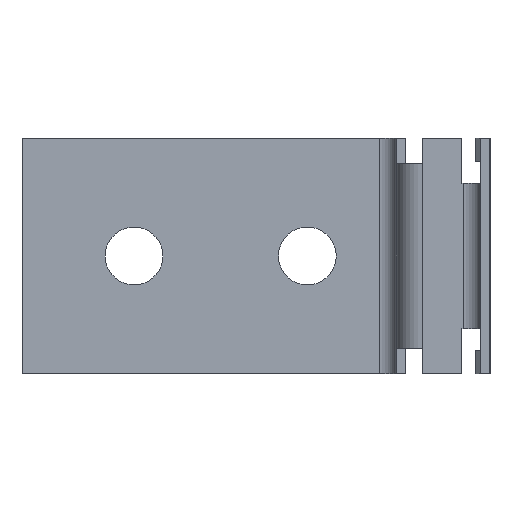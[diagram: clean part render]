
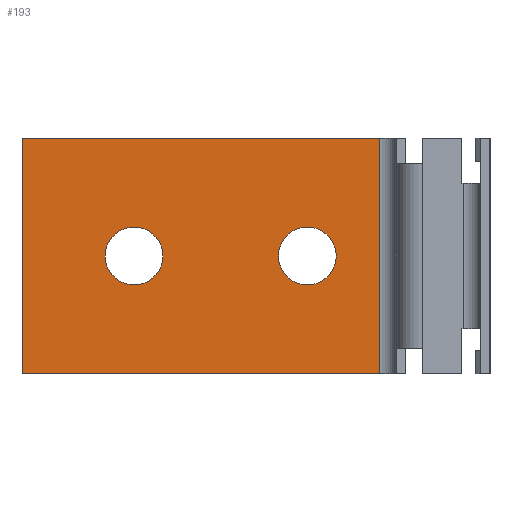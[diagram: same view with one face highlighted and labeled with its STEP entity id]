
A CAD part, left-side view. The second image highlights one B-rep face of the part: STEP entity #193.
In plain terms, the highlighted planar face has unit normal (-1, 0, 0).
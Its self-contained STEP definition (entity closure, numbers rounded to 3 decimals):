
#193 = ADVANCED_FACE( '', ( #414, #415, #416 ), #417, .F. );
#414 = FACE_BOUND( '', #662, .T. );
#415 = FACE_OUTER_BOUND( '', #663, .T. );
#416 = FACE_BOUND( '', #664, .T. );
#417 = PLANE( '', #665 );
#662 = EDGE_LOOP( '', ( #1123 ) );
#663 = EDGE_LOOP( '', ( #1124, #1125, #1126, #1127 ) );
#664 = EDGE_LOOP( '', ( #1128 ) );
#665 = AXIS2_PLACEMENT_3D( '', #1129, #1130, #1131 );
#1123 = ORIENTED_EDGE( '', *, *, #1594, .F. );
#1124 = ORIENTED_EDGE( '', *, *, #1557, .T. );
#1125 = ORIENTED_EDGE( '', *, *, #1581, .F. );
#1126 = ORIENTED_EDGE( '', *, *, #1600, .F. );
#1127 = ORIENTED_EDGE( '', *, *, #1676, .T. );
#1128 = ORIENTED_EDGE( '', *, *, #1677, .F. );
#1129 = CARTESIAN_POINT( '', ( 27.2, 40.5, 10.2 ) );
#1130 = DIRECTION( '', ( 1., 0., 0. ) );
#1131 = DIRECTION( '', ( 0., 1., 0. ) );
#1557 = EDGE_CURVE( '', #1893, #1891, #1894, .T. );
#1581 = EDGE_CURVE( '', #1926, #1891, #1928, .T. );
#1594 = EDGE_CURVE( '', #1945, #1945, #1946, .F. );
#1600 = EDGE_CURVE( '', #1954, #1926, #1956, .T. );
#1676 = EDGE_CURVE( '', #1954, #1893, #2075, .T. );
#1677 = EDGE_CURVE( '', #2076, #2076, #2077, .F. );
#1891 = VERTEX_POINT( '', #2357 );
#1893 = VERTEX_POINT( '', #2359 );
#1894 = LINE( '', #2360, #2361 );
#1926 = VERTEX_POINT( '', #2407 );
#1928 = LINE( '', #2409, #2410 );
#1945 = VERTEX_POINT( '', #2435 );
#1946 = CIRCLE( '', #2436, 2.5 );
#1954 = VERTEX_POINT( '', #2446 );
#1956 = LINE( '', #2449, #2450 );
#2075 = LINE( '', #2624, #2625 );
#2076 = VERTEX_POINT( '', #2626 );
#2077 = CIRCLE( '', #2627, 2.5 );
#2357 = CARTESIAN_POINT( '', ( 27.2, 9.6, -10.2 ) );
#2359 = CARTESIAN_POINT( '', ( 27.2, 40.5, -10.2 ) );
#2360 = CARTESIAN_POINT( '', ( 27.2, 40.5, -10.2 ) );
#2361 = VECTOR( '', #2841, 1000. );
#2407 = CARTESIAN_POINT( '', ( 27.2, 9.6, 10.2 ) );
#2409 = CARTESIAN_POINT( '', ( 27.2, 9.6, 10.2 ) );
#2410 = VECTOR( '', #2868, 1000. );
#2435 = CARTESIAN_POINT( '', ( 27.2, 18.304, 0. ) );
#2436 = AXIS2_PLACEMENT_3D( '', #2877, #2878, #2879 );
#2446 = CARTESIAN_POINT( '', ( 27.2, 40.5, 10.2 ) );
#2449 = CARTESIAN_POINT( '', ( 27.2, 40.5, 10.2 ) );
#2450 = VECTOR( '', #2886, 1000. );
#2624 = CARTESIAN_POINT( '', ( 27.2, 40.5, 10.2 ) );
#2625 = VECTOR( '', #2957, 1000. );
#2626 = CARTESIAN_POINT( '', ( 27.2, 33.304, 0. ) );
#2627 = AXIS2_PLACEMENT_3D( '', #2958, #2959, #2960 );
#2841 = DIRECTION( '', ( 0., -1., 0. ) );
#2868 = DIRECTION( '', ( 0., 0., -1. ) );
#2877 = CARTESIAN_POINT( '', ( 27.2, 15.804, 0. ) );
#2878 = DIRECTION( '', ( 1., 0., 0. ) );
#2879 = DIRECTION( '', ( 0., 1., 0. ) );
#2886 = DIRECTION( '', ( 0., -1., 0. ) );
#2957 = DIRECTION( '', ( 0., 0., -1. ) );
#2958 = CARTESIAN_POINT( '', ( 27.2, 30.804, 0. ) );
#2959 = DIRECTION( '', ( 1., 0., 0. ) );
#2960 = DIRECTION( '', ( 0., 1., 0. ) );
